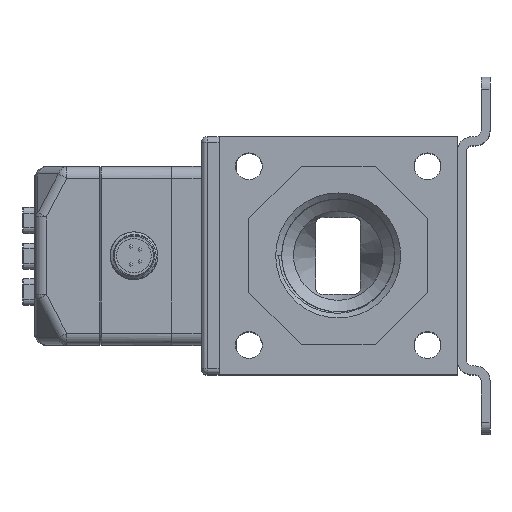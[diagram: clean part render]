
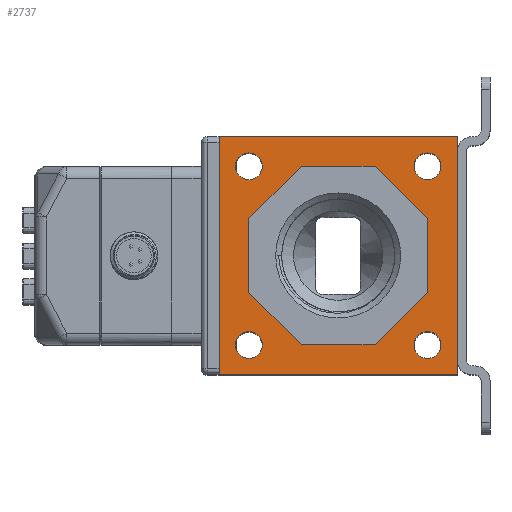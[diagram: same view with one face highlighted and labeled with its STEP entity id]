
A CAD part, top view. The second image highlights one B-rep face of the part: STEP entity #2737.
In plain terms, the highlighted planar face has unit normal (0, 0, 1).
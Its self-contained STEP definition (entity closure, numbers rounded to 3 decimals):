
#1772=FACE_BOUND('',#5132,.T.);
#1773=FACE_BOUND('',#5133,.T.);
#1774=FACE_BOUND('',#5134,.T.);
#1775=FACE_BOUND('',#5135,.T.);
#1776=FACE_BOUND('',#5136,.T.);
#1777=FACE_BOUND('',#5137,.T.);
#2168=CIRCLE('',#18312,2.25);
#2170=CIRCLE('',#18315,2.25);
#2172=CIRCLE('',#18318,2.25);
#2174=CIRCLE('',#18321,2.25);
#2737=ADVANCED_FACE('',(#1772,#1773,#1774,#1775,#1776,#1777),#3598,.F.);
#3598=PLANE('',#18324);
#5132=EDGE_LOOP('',(#7157,#7158,#7159,#7160,#7161,#7162,#7163,#7164));
#5133=EDGE_LOOP('',(#7165,#7166,#7167,#7168));
#5134=EDGE_LOOP('',(#7169));
#5135=EDGE_LOOP('',(#7170));
#5136=EDGE_LOOP('',(#7171));
#5137=EDGE_LOOP('',(#7172));
#7157=ORIENTED_EDGE('',*,*,#12967,.F.);
#7158=ORIENTED_EDGE('',*,*,#12970,.F.);
#7159=ORIENTED_EDGE('',*,*,#12972,.F.);
#7160=ORIENTED_EDGE('',*,*,#12974,.F.);
#7161=ORIENTED_EDGE('',*,*,#12976,.F.);
#7162=ORIENTED_EDGE('',*,*,#12978,.F.);
#7163=ORIENTED_EDGE('',*,*,#12980,.F.);
#7164=ORIENTED_EDGE('',*,*,#12982,.F.);
#7165=ORIENTED_EDGE('',*,*,#12993,.F.);
#7166=ORIENTED_EDGE('',*,*,#12990,.F.);
#7167=ORIENTED_EDGE('',*,*,#12987,.F.);
#7168=ORIENTED_EDGE('',*,*,#12984,.F.);
#7169=ORIENTED_EDGE('',*,*,#12999,.F.);
#7170=ORIENTED_EDGE('',*,*,#12997,.F.);
#7171=ORIENTED_EDGE('',*,*,#12995,.F.);
#7172=ORIENTED_EDGE('',*,*,#13001,.F.);
#11179=VERTEX_POINT('',#26030);
#11180=VERTEX_POINT('',#26031);
#11181=VERTEX_POINT('',#26036);
#11182=VERTEX_POINT('',#26040);
#11183=VERTEX_POINT('',#26044);
#11184=VERTEX_POINT('',#26048);
#11185=VERTEX_POINT('',#26052);
#11186=VERTEX_POINT('',#26056);
#11188=VERTEX_POINT('',#26063);
#11189=VERTEX_POINT('',#26065);
#11191=VERTEX_POINT('',#26071);
#11193=VERTEX_POINT('',#26077);
#11195=VERTEX_POINT('',#26086);
#11197=VERTEX_POINT('',#26091);
#11199=VERTEX_POINT('',#26096);
#11201=VERTEX_POINT('',#26101);
#12967=EDGE_CURVE('',#11179,#11180,#15219,.T.);
#12970=EDGE_CURVE('',#11181,#11179,#15222,.T.);
#12972=EDGE_CURVE('',#11182,#11181,#15224,.T.);
#12974=EDGE_CURVE('',#11183,#11182,#15226,.T.);
#12976=EDGE_CURVE('',#11184,#11183,#15228,.T.);
#12978=EDGE_CURVE('',#11185,#11184,#15230,.T.);
#12980=EDGE_CURVE('',#11186,#11185,#15232,.T.);
#12982=EDGE_CURVE('',#11180,#11186,#15234,.T.);
#12984=EDGE_CURVE('',#11188,#11189,#15236,.T.);
#12987=EDGE_CURVE('',#11189,#11191,#15239,.T.);
#12990=EDGE_CURVE('',#11191,#11193,#15242,.T.);
#12993=EDGE_CURVE('',#11193,#11188,#15245,.T.);
#12995=EDGE_CURVE('',#11195,#11195,#2168,.T.);
#12997=EDGE_CURVE('',#11197,#11197,#2170,.T.);
#12999=EDGE_CURVE('',#11199,#11199,#2172,.T.);
#13001=EDGE_CURVE('',#11201,#11201,#2174,.T.);
#15219=LINE('',#26029,#16787);
#15222=LINE('',#26035,#16790);
#15224=LINE('',#26039,#16792);
#15226=LINE('',#26043,#16794);
#15228=LINE('',#26047,#16796);
#15230=LINE('',#26051,#16798);
#15232=LINE('',#26055,#16800);
#15234=LINE('',#26059,#16802);
#15236=LINE('',#26064,#16804);
#15239=LINE('',#26070,#16807);
#15242=LINE('',#26076,#16810);
#15245=LINE('',#26082,#16813);
#16787=VECTOR('',#20421,1.);
#16790=VECTOR('',#20426,1.);
#16792=VECTOR('',#20430,1.);
#16794=VECTOR('',#20434,1.);
#16796=VECTOR('',#20438,1.);
#16798=VECTOR('',#20442,1.);
#16800=VECTOR('',#20446,1.);
#16802=VECTOR('',#20450,1.);
#16804=VECTOR('',#20454,1.);
#16807=VECTOR('',#20459,1.);
#16810=VECTOR('',#20464,1.);
#16813=VECTOR('',#20469,1.);
#18312=AXIS2_PLACEMENT_3D('',#26085,#20473,#20474);
#18315=AXIS2_PLACEMENT_3D('',#26090,#20479,#20480);
#18318=AXIS2_PLACEMENT_3D('',#26095,#20485,#20486);
#18321=AXIS2_PLACEMENT_3D('',#26100,#20491,#20492);
#18324=AXIS2_PLACEMENT_3D('',#26105,#20497,#20498);
#20421=DIRECTION('',(0.,-1.,0.));
#20426=DIRECTION('',(-0.707,-0.707,0.));
#20430=DIRECTION('',(-1.,0.,0.));
#20434=DIRECTION('',(-0.707,0.707,0.));
#20438=DIRECTION('',(0.,1.,0.));
#20442=DIRECTION('',(0.707,0.707,0.));
#20446=DIRECTION('',(1.,0.,0.));
#20450=DIRECTION('',(0.707,-0.707,0.));
#20454=DIRECTION('',(0.,1.,0.));
#20459=DIRECTION('',(1.,0.,0.));
#20464=DIRECTION('',(0.,-1.,0.));
#20469=DIRECTION('',(-1.,0.,0.));
#20473=DIRECTION('',(0.,0.,1.));
#20474=DIRECTION('',(1.,0.,0.));
#20479=DIRECTION('',(0.,0.,1.));
#20480=DIRECTION('',(1.,0.,0.));
#20485=DIRECTION('',(0.,0.,1.));
#20486=DIRECTION('',(1.,0.,0.));
#20491=DIRECTION('',(0.,0.,1.));
#20492=DIRECTION('',(1.,0.,0.));
#20497=DIRECTION('',(0.,0.,-1.));
#20498=DIRECTION('',(-1.,0.,0.));
#26029=CARTESIAN_POINT('',(7.,15.787,-1.));
#26030=CARTESIAN_POINT('',(7.,28.213,-1.));
#26031=CARTESIAN_POINT('',(7.,15.787,-1.));
#26035=CARTESIAN_POINT('',(7.,28.213,-1.));
#26036=CARTESIAN_POINT('',(15.787,37.,-1.));
#26039=CARTESIAN_POINT('',(15.787,37.,-1.));
#26040=CARTESIAN_POINT('',(28.213,37.,-1.));
#26043=CARTESIAN_POINT('',(28.213,37.,-1.));
#26044=CARTESIAN_POINT('',(37.,28.213,-1.));
#26047=CARTESIAN_POINT('',(37.,28.213,-1.));
#26048=CARTESIAN_POINT('',(37.,15.787,-1.));
#26051=CARTESIAN_POINT('',(37.,15.787,-1.));
#26052=CARTESIAN_POINT('',(28.213,7.,-1.));
#26055=CARTESIAN_POINT('',(28.213,7.,-1.));
#26056=CARTESIAN_POINT('',(15.787,7.,-1.));
#26059=CARTESIAN_POINT('',(15.787,7.,-1.));
#26063=CARTESIAN_POINT('',(2.,2.,-1.));
#26064=CARTESIAN_POINT('',(2.,42.,-1.));
#26065=CARTESIAN_POINT('',(2.,42.,-1.));
#26070=CARTESIAN_POINT('',(44.5,42.,-1.));
#26071=CARTESIAN_POINT('',(42.,42.,-1.));
#26076=CARTESIAN_POINT('',(42.,-0.5,-1.));
#26077=CARTESIAN_POINT('',(42.,2.,-1.));
#26082=CARTESIAN_POINT('',(-0.5,2.,-1.));
#26085=CARTESIAN_POINT('',(7.,37.,-1.));
#26086=CARTESIAN_POINT('',(9.25,37.,-1.));
#26090=CARTESIAN_POINT('',(37.,7.,-1.));
#26091=CARTESIAN_POINT('',(39.25,7.,-1.));
#26095=CARTESIAN_POINT('',(37.,37.,-1.));
#26096=CARTESIAN_POINT('',(39.25,37.,-1.));
#26100=CARTESIAN_POINT('',(7.,7.,-1.));
#26101=CARTESIAN_POINT('',(9.25,7.,-1.));
#26105=CARTESIAN_POINT('',(22.,22.,-1.));
